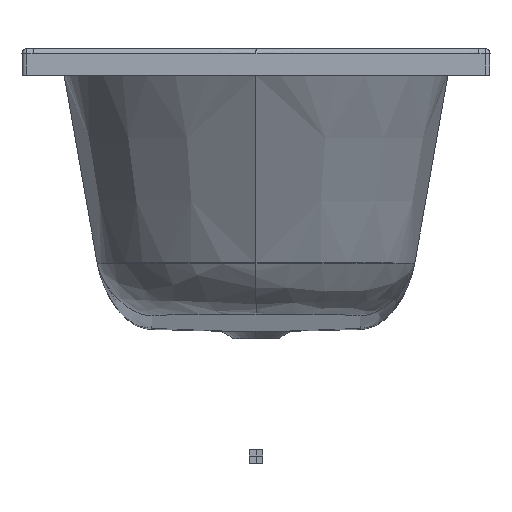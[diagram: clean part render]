
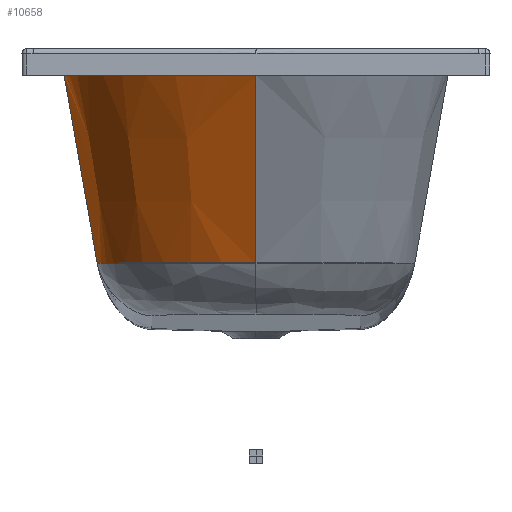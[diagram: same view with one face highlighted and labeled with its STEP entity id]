
A CAD part, front view. The second image highlights one B-rep face of the part: STEP entity #10658.
In plain terms, the highlighted free-form (B-spline) face has degree [3, 3] with [7, 4] control points.
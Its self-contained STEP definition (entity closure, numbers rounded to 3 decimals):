
#2569=DIRECTION('',(0.161,0.376,-0.912));
#2570=VECTOR('',#2569,307.662);
#2571=CARTESIAN_POINT('',(-287.009,-1423.78,570.));
#2572=LINE('',#2571,#2570);
#2573=CARTESIAN_POINT('',(-287.009,-1423.78,570.));
#2574=CARTESIAN_POINT('',(-287.009,-1427.213,570.));
#2575=CARTESIAN_POINT('',(-286.752,-1434.106,570.));
#2576=CARTESIAN_POINT('',(-285.574,-1444.563,570.));
#2577=CARTESIAN_POINT('',(-283.594,-1455.044,570.));
#2578=CARTESIAN_POINT('',(-280.782,-1465.585,570.));
#2579=CARTESIAN_POINT('',(-277.134,-1476.092,570.));
#2580=CARTESIAN_POINT('',(-272.619,-1486.577,570.));
#2581=CARTESIAN_POINT('',(-267.192,-1497.042,570.));
#2582=CARTESIAN_POINT('',(-260.788,-1507.485,570.));
#2583=CARTESIAN_POINT('',(-253.346,-1517.901,570.));
#2584=CARTESIAN_POINT('',(-244.823,-1528.248,570.));
#2585=CARTESIAN_POINT('',(-235.147,-1538.506,570.));
#2586=CARTESIAN_POINT('',(-224.257,-1548.618,570.));
#2587=CARTESIAN_POINT('',(-212.141,-1558.481,570.));
#2588=CARTESIAN_POINT('',(-198.78,-1567.999,570.));
#2589=CARTESIAN_POINT('',(-184.107,-1577.115,570.));
#2590=CARTESIAN_POINT('',(-168.066,-1585.765,570.));
#2591=CARTESIAN_POINT('',(-150.69,-1593.824,570.));
#2592=CARTESIAN_POINT('',(-131.995,-1601.18,570.));
#2593=CARTESIAN_POINT('',(-111.984,-1607.713,570.));
#2594=CARTESIAN_POINT('',(-90.885,-1613.237,570.));
#2595=CARTESIAN_POINT('',(-68.955,-1617.639,570.));
#2596=CARTESIAN_POINT('',(-46.354,-1620.855,570.));
#2597=CARTESIAN_POINT('',(-23.256,-1622.82,570.));
#2598=CARTESIAN_POINT('',(-7.779,-1623.262,570.));
#2599=CARTESIAN_POINT('',(0.,-1623.262,570.));
#2601=DIRECTION('',(0.,-0.469,0.883));
#2602=VECTOR('',#2601,319.246);
#2603=CARTESIAN_POINT('',(0.,-1473.385,
288.122));
#2604=LINE('',#2603,#2602);
#2983=CARTESIAN_POINT('',(0.,-1473.385,
288.122));
#2984=CARTESIAN_POINT('',(-14.179,-1473.385,
288.122));
#2985=CARTESIAN_POINT('',(-42.17,-1471.61,
288.126));
#2986=CARTESIAN_POINT('',(-82.325,-1463.991,
288.144));
#2987=CARTESIAN_POINT('',(-118.031,-1452.308,
288.174));
#2988=CARTESIAN_POINT('',(-148.695,-1437.731,
288.22));
#2989=CARTESIAN_POINT('',(-174.35,-1421.084,
288.287));
#2990=CARTESIAN_POINT('',(-195.139,-1403.045,
288.377));
#2991=CARTESIAN_POINT('',(-211.363,-1384.289,
288.495));
#2992=CARTESIAN_POINT('',(-223.379,-1365.227,
288.647));
#2993=CARTESIAN_POINT('',(-231.609,-1346.068,
288.836));
#2994=CARTESIAN_POINT('',(-236.432,-1326.916,
289.051));
#2995=CARTESIAN_POINT('',(-237.499,-1314.222,
289.214));
#2996=CARTESIAN_POINT('',(-237.515,-1307.948,
289.305));
#3008=CARTESIAN_POINT('',(0.,-1473.385,
288.122));
#3199=CARTESIAN_POINT('',(-237.515,-1307.948,
289.305));
#3201=VERTEX_POINT('',#3199);
#3222=CARTESIAN_POINT('',(-287.009,-1423.78,570.));
#3223=VERTEX_POINT('',#3222);
#3352=VERTEX_POINT('',#3008);
#3355=CARTESIAN_POINT('',(0.,-1623.262,570.));
#3356=VERTEX_POINT('',#3355);
#10621=CARTESIAN_POINT('',(0.,-1623.262,570.));
#10622=CARTESIAN_POINT('',(0.,-1573.302,
476.04));
#10623=CARTESIAN_POINT('',(0.,-1523.343,
382.079));
#10624=CARTESIAN_POINT('',(0.,-1473.383,
288.119));
#10625=CARTESIAN_POINT('',(-37.669,-1623.262,570.));
#10626=CARTESIAN_POINT('',(-35.375,-1573.302,
476.04));
#10627=CARTESIAN_POINT('',(-33.08,-1523.343,
382.079));
#10628=CARTESIAN_POINT('',(-30.785,-1473.383,
288.119));
#10629=CARTESIAN_POINT('',(-113.008,-1612.848,
570.017));
#10630=CARTESIAN_POINT('',(-106.124,-1563.546,
476.057));
#10631=CARTESIAN_POINT('',(-99.24,-1514.244,
382.096));
#10632=CARTESIAN_POINT('',(-92.355,-1464.942,
288.136));
#10633=CARTESIAN_POINT('',(-208.544,-1568.481,
570.12));
#10634=CARTESIAN_POINT('',(-196.062,-1521.896,
476.159));
#10635=CARTESIAN_POINT('',(-183.578,-1475.311,
382.198));
#10636=CARTESIAN_POINT('',(-171.094,-1428.726,
288.237));
#10637=CARTESIAN_POINT('',(-272.222,-1502.275,
570.403));
#10638=CARTESIAN_POINT('',(-256.318,-1459.497,
476.442));
#10639=CARTESIAN_POINT('',(-240.414,-1416.721,
382.479));
#10640=CARTESIAN_POINT('',(-224.508,-1373.946,
288.517));
#10641=CARTESIAN_POINT('',(-287.165,-1450.225,
570.885));
#10642=CARTESIAN_POINT('',(-270.597,-1410.165,
476.923));
#10643=CARTESIAN_POINT('',(-254.029,-1370.105,
382.961));
#10644=CARTESIAN_POINT('',(-237.461,-1330.046,
288.999));
#10645=CARTESIAN_POINT('',(-287.217,-1424.268,
571.183));
#10646=CARTESIAN_POINT('',(-270.65,-1385.495,
477.223));
#10647=CARTESIAN_POINT('',(-254.082,-1346.721,
383.263));
#10648=CARTESIAN_POINT('',(-237.514,-1307.947,
289.302));
#10649=B_SPLINE_SURFACE_WITH_KNOTS('',3,3,((#10621,#10622,#10623,#10624),
(#10625,#10626,#10627,#10628),(#10629,#10630,#10631,#10632),(#10633,#10634,
#10635,#10636),(#10637,#10638,#10639,#10640),(#10641,#10642,#10643,#10644),(
#10645,#10646,#10647,#10648)),.UNSPECIFIED.,.F.,.F.,.F.,(4,1,1,1,4),(4,4),(
0.599,0.619,0.64,0.66,
0.681),(0.091,0.762),.UNSPECIFIED.);
#10651=ORIENTED_EDGE('',*,*,#10650,.F.);
#10653=ORIENTED_EDGE('',*,*,#10652,.T.);
#10654=ORIENTED_EDGE('',*,*,#10609,.F.);
#10655=ORIENTED_EDGE('',*,*,#3652,.T.);
#10656=EDGE_LOOP('',(#10651,#10653,#10654,#10655));
#10657=FACE_OUTER_BOUND('',#10656,.F.);
#10658=ADVANCED_FACE('',(#10657),#10649,.F.);
#2600=B_SPLINE_CURVE_WITH_KNOTS('',3,(#2573,#2574,#2575,#2576,#2577,#2578,#2579,
#2580,#2581,#2582,#2583,#2584,#2585,#2586,#2587,#2588,#2589,#2590,#2591,#2592,
#2593,#2594,#2595,#2596,#2597,#2598,#2599),.UNSPECIFIED.,.F.,.F.,(4,1,1,1,1,1,1,
1,1,1,1,1,1,1,1,1,1,1,1,1,1,1,1,1,4),(0.,0.042,0.083,
0.125,0.167,0.208,0.25,0.292,
0.333,0.375,0.417,0.458,0.5,
0.542,0.583,0.625,0.667,0.708,
0.75,0.792,0.833,0.875,0.917,
0.958,1.),.UNSPECIFIED.);
#2997=B_SPLINE_CURVE_WITH_KNOTS('',3,(#2983,#2984,#2985,#2986,#2987,#2988,#2989,
#2990,#2991,#2992,#2993,#2994,#2995,#2996),.UNSPECIFIED.,.F.,.F.,(4,1,1,1,1,1,1,
1,1,1,1,4),(0.,0.091,0.182,0.273,
0.364,0.455,0.545,0.636,
0.727,0.818,0.909,1.),.UNSPECIFIED.);
#3652=EDGE_CURVE('',#3223,#3356,#2600,.T.);
#10609=EDGE_CURVE('',#3223,#3201,#2572,.T.);
#10650=EDGE_CURVE('',#3352,#3356,#2604,.T.);
#10652=EDGE_CURVE('',#3352,#3201,#2997,.T.);
